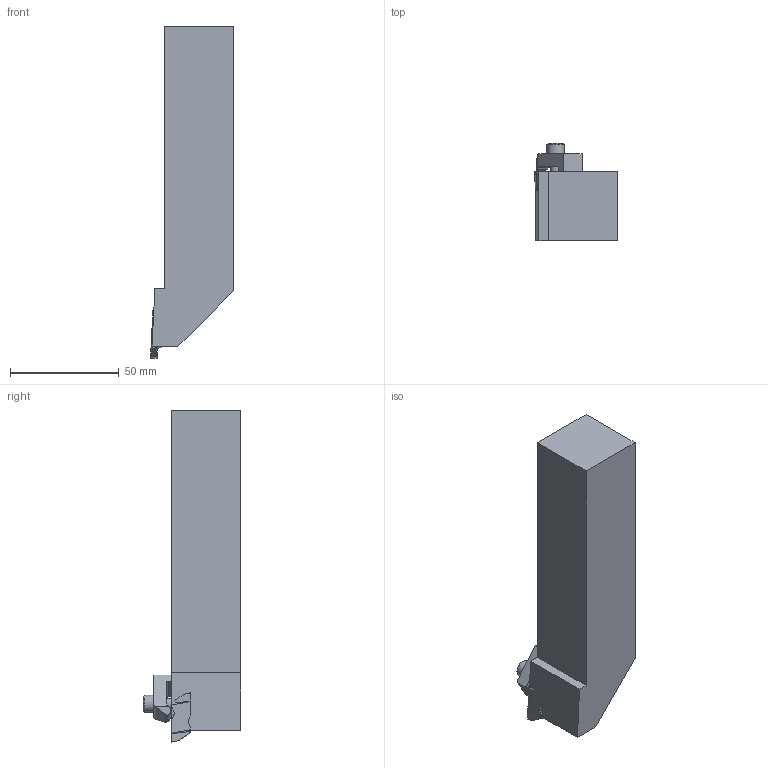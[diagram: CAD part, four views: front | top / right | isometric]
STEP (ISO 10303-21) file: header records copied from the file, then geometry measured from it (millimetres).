
FILE_DESCRIPTION(/* description */ (''),/* implementation_level */ '2;1');
FILE_NAME(/* name */ 'NSR203D_GTM.stp',/* time_stamp */ '2016-04-14T07:43:30+01:00',/* author */ (''),/* organization */ (''),/* preprocessor_version */ 'ST-DEVELOPER v15',/* originating_system */ 'SIEMENS PLM Software NX 9.0',/* authorisation */ '');
FILE_SCHEMA (('AUTOMOTIVE_DESIGN { 1 0 10303 214 3 1 1 1 }'));
Length unit declared in the file: millimetre
Products named in the file (1): NSR203D_GTM
Bounding box: 38.08 x 44.82 x 152.4 mm (x, y, z)
Volume: 144640.5 mm3; surface area: 22205.7 mm2
Topology: 4 solids, 4 shells, 75 faces, 197 edges, 132 vertices
Faces by surface type: plane 54, cylinder 11, extrusion 4, bspline 4, cone 2
Full cylindrical faces by diameter (mm): 4.826 x1, 7.938 x1
Entity records: 2664 total; most frequent: CARTESIAN_POINT 774, ORIENTED_EDGE 386, DIRECTION 347, EDGE_CURVE 193, VECTOR 145, LINE 141, VERTEX_POINT 132, AXIS2_PLACEMENT_3D 101
